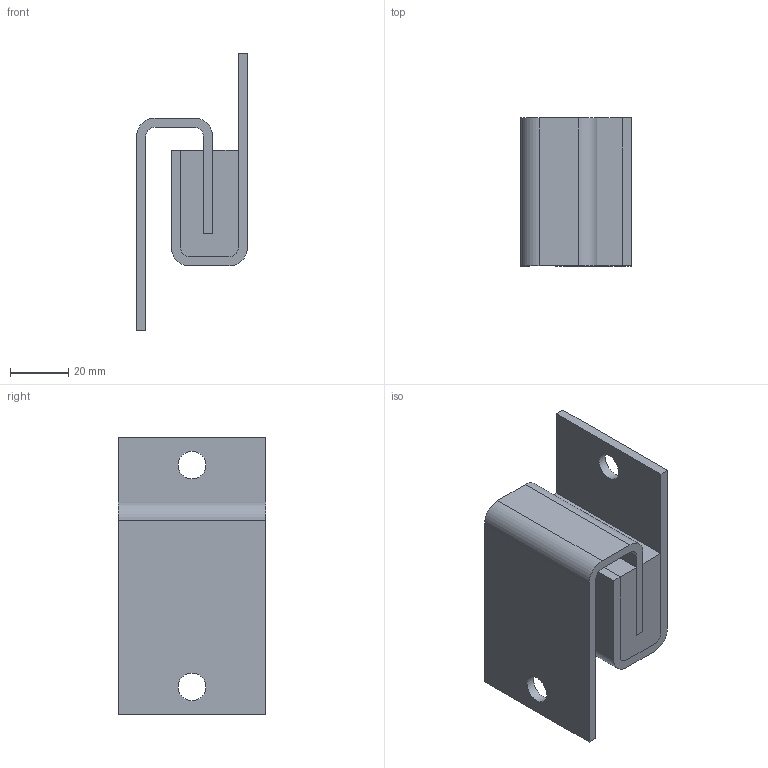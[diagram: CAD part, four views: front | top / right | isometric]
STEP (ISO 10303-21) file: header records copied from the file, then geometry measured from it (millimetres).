
FILE_DESCRIPTION(/* description */ (''),/* implementation_level */ '2;1');
FILE_NAME(/* name */ '\\Mleuckthor2\cad-proe_solids\WEBSITE FILES 05.22.13\STEP\WIC\WIC2.stp',/* time_stamp */ '2016-01-15T13:31:51-05:00',/* author */ ('rramoutar'),/* organization */ ('Mason Industries Inc.'),/* preprocessor_version */ 'ST-DEVELOPER v15.6',/* originating_system */ 'Autodesk Inventor 2015',/* authorisation */ '');
FILE_SCHEMA (('CONFIG_CONTROL_DESIGN'));
Length unit declared in the file: inch
Products named in the file (1): A-18377-4 WIC-2 SWAY BRACE
Bounding box: 38.1 x 50.8 x 95.25 mm (x, y, z)
Volume: 72966.7 mm3; surface area: 38035.8 mm2
Topology: 3 solids, 3 shells, 42 faces, 110 edges, 74 vertices
Faces by surface type: plane 30, cylinder 12
Full cylindrical faces by diameter (mm): 9.525 x2
Entity records: 1361 total; most frequent: CARTESIAN_POINT 221, DIRECTION 216, ORIENTED_EDGE 212, EDGE_CURVE 106, LINE 82, VECTOR 82, VERTEX_POINT 72, AXIS2_PLACEMENT_3D 67
